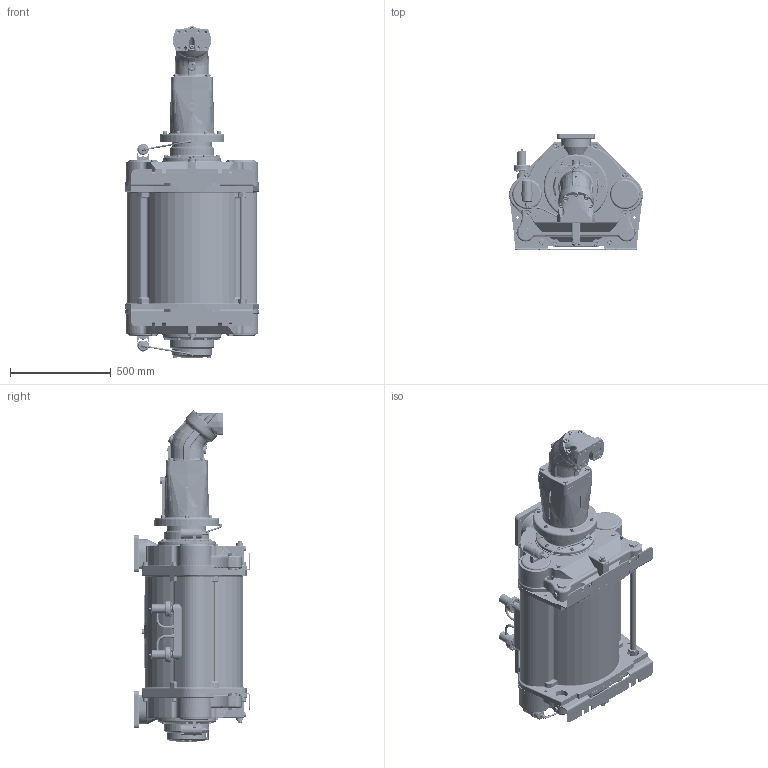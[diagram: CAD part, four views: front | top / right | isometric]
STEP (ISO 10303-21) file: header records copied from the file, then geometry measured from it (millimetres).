
FILE_DESCRIPTION(/* description */ (''),/* implementation_level */ '2;1');
FILE_NAME(/* name */ '1700031B.stp',/* time_stamp */ '2025-09-23T12:40:08+02:00',/* author */ ('JJ'),/* organization */ (''),/* preprocessor_version */ 'ST-DEVELOPER v20',/* originating_system */ 'Autodesk Inventor 2025',/* authorisation */ '');
FILE_SCHEMA (('AUTOMOTIVE_DESIGN { 1 0 10303 214 3 1 1 }'));
Products named in the file (45): 1700031; 1700030 Ready for adaptor; 1634826; 1634811; 922000266; 1620316; 1620318; 910300482; 944000089; 932400155; 932400154; 932400156; 910100148; 915000050; 922200075; 910000407; 915000217-250; 915000232; 915000225; 915000225-part1; 915000225-part2; 910100191; 944600240; 944600173; 944600239; 910300221; 915000217-330; 1634666; 1634667; 1634668; 1634130; 1634131; 1634670; 1634134; 910200105; 910100125; 910300428; 921000047; 922100045; 922100339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
Assembly tree (72 placements, depth 3):
  1700031
    1700030 Ready for adaptor
    910300482  x10
    1634826
      1634811
      922000266
    1620316
    1620318
    944000089
    932400155
    932400154
    932400156
    910100148  x4
    915000050
    922200075
    910000407  x4
    915000232  x2
    915000225  x2
      915000225-part1
      915000225-part2
    944600173  x2
    944600239  x2
    944600240  x2
    915000217-250
    910100191  x2
    910300221  x2
    915000217-330
    1634666  x2
      1634667
      1634668
      1634130
      1634131
      1634670
      1634134
      910200105
      910100125
      910300428
      921000047
      922100045
      922100339
      1634669
      925000651
      910300012
    927000134-TM2500  x2
    925000862  x2
Bounding box: 662.74 x 578.17 x 1645.17 mm (x, y, z)
Volume: 212992498.8 mm3; surface area: 4963154.9 mm2
Topology: 88 solids, 89 shells, 7048 faces, 17502 edges, 11012 vertices
Faces by surface type: plane 2572, bspline 1709, cylinder 1595, cone 604, torus 490, sphere 78
Full cylindrical faces by diameter (mm): 1.5 x16, 3 x2, 3.2 x4, 3.3 x4, 3.5 x2, 4 x6, 4.134 x4, 4.917 x2, 4.92 x10, 5 x2, 5.3 x2, 6 x42, 6.1 x2, 6.4 x2, 6.5 x8, 6.647 x1, 8 x17, 8.4 x2, 8.5 x6, 8.57 x2, 8.92 x2, 9.2 x2, 9.7 x2, 9.8 x4, 10 x19, 10.106 x18, 11 x11, 11.445 x2, 12 x25, 13 x18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
Entity records: 343297 total; most frequent: CARTESIAN_POINT 211053, ORIENTED_EDGE 27876, DIRECTION 24298, EDGE_CURVE 13938, AXIS2_PLACEMENT_3D 9530, VERTEX_POINT 8770, EDGE_LOOP 6310, FACE_OUTER_BOUND 5668
